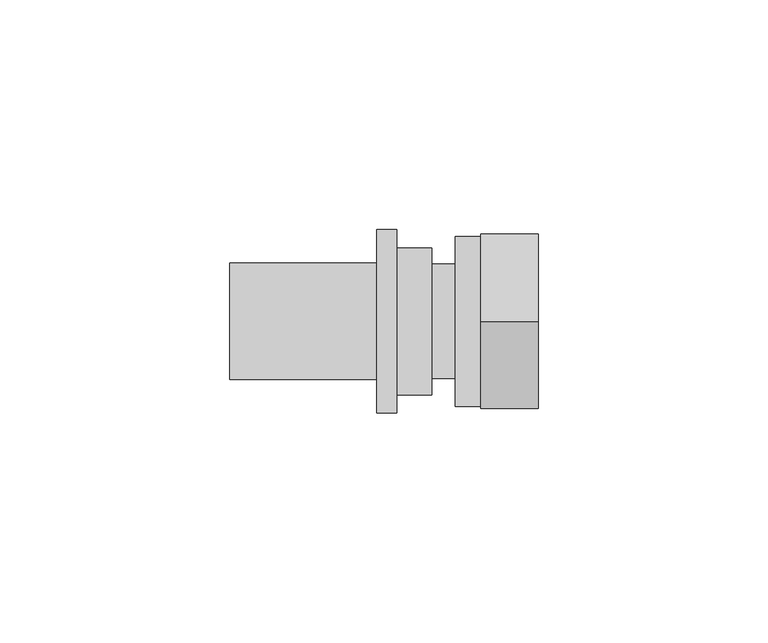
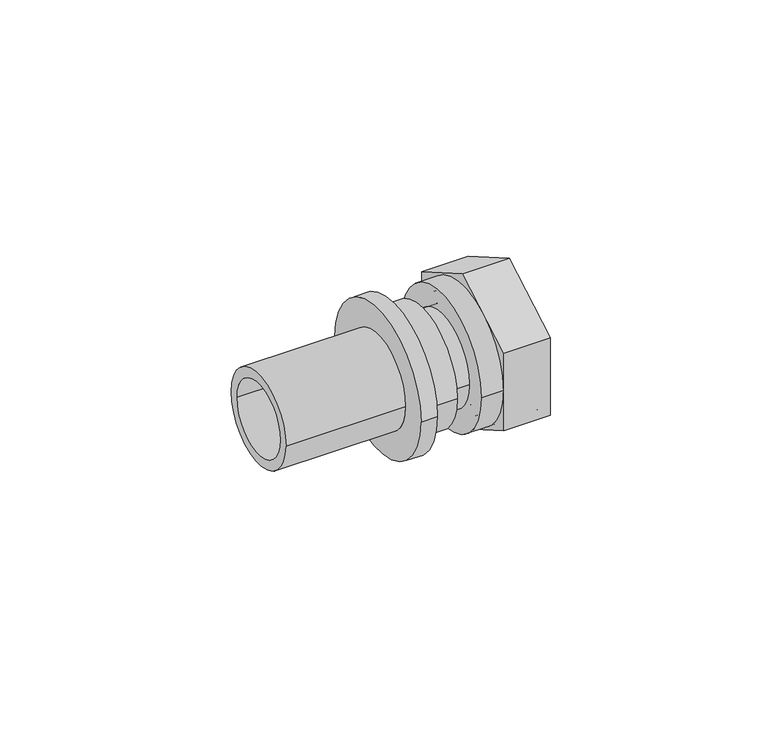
"""IFC4 building model written with IfcOpenShell, lengths in millimetres: pipe fitting geometry, REHAU_RAUTITAN_Adaptor_RX+_union nut : REHAU_RAUTITAN_Adaptor_RX+_union nut."""

from ifc_helpers import new_model, si_unit, point, frame, origin, origin_2d, place, context, project, spatial, polyline, circle_curve, trimmed, segment, composite_curve, outline, extrude, source, transform, mapped, element, save
from ifc_brep_helpers import plane_surface, cylinder_surface, revolved_surface, advanced_brep


def pipe_fitting_c94c5751(model_context):
    return source(origin(), model_context, "Body", "SolidModel", [
        advanced_brep(
        [(0.0, 16.0, 0.0), (0.0, -16.0, 0.0), (-7.65, -16.0, 0.0), (-7.65, 16.0, 0.0), (-44.0, 10.0, 0.0), (-44.0, -10.0, 0.0), (0.0, -10.0, 0.0), (0.0, 10.0, 0.0), (-12.0, 12.725, 0.0), (-12.0, -12.725, 0.0), (-44.0, -12.725, 0.0), (-44.0, 12.725, 0.0), (-7.65, 20.0, 0.0), (-7.65, -20.0, 0.0), (-12.0, -20.0, 0.0), (-12.0, 20.0, 0.0)],
        [
            (0, 1, circle_curve(frame((0.0, 0.0, 0.0), z_axis=(-1.0, 0.0, 0.0), x_axis=(0.0, -1.0, 0.0)), 16.0)),
            (1, 2),
            (2, 3, circle_curve(frame((-7.65, 0.0, 0.0), z_axis=(1.0, 0.0, 0.0), x_axis=(0.0, -1.0, 0.0)), 16.0)),
            (3, 0),
            (4, 5, circle_curve(frame((-44.0, 0.0, 0.0), z_axis=(-1.0, 0.0, 0.0), x_axis=(0.0, -1.0, 0.0)), 10.0)),
            (5, 6),
            (6, 7, circle_curve(frame((0.0, 0.0, 0.0), z_axis=(1.0, 0.0, 0.0), x_axis=(0.0, -1.0, 0.0)), 10.0)),
            (7, 4),
            (8, 9, circle_curve(frame((-12.0, 0.0, 0.0), z_axis=(-1.0, 0.0, 0.0), x_axis=(0.0, -1.0, 0.0)), 12.725)),
            (9, 10),
            (10, 11, circle_curve(frame((-44.0, 0.0, 0.0), z_axis=(1.0, 0.0, 0.0), x_axis=(0.0, -1.0, 0.0)), 12.725)),
            (11, 8),
            (12, 13, circle_curve(frame((-7.65, 0.0, 0.0), z_axis=(-1.0, 0.0, 0.0), x_axis=(0.0, -1.0, 0.0)), 20.0)),
            (13, 14),
            (14, 15, circle_curve(frame((-12.0, 0.0, 0.0), z_axis=(1.0, 0.0, 0.0), x_axis=(0.0, -1.0, 0.0)), 20.0)),
            (15, 12),
            (1, 0, circle_curve(frame((0.0, 0.0, 0.0), z_axis=(-1.0, 0.0, 0.0), x_axis=(0.0, 1.0, 0.0)), 16.0)),
            (3, 2, circle_curve(frame((-7.65, 0.0, 0.0), z_axis=(1.0, 0.0, 0.0), x_axis=(0.0, 1.0, 0.0)), 16.0)),
            (6, 7, circle_curve(frame((0.0, 0.0, 0.0), z_axis=(-1.0, 0.0, 0.0), x_axis=(0.0, 1.0, 0.0)), 10.0)),
            (5, 4, circle_curve(frame((-44.0, 0.0, 0.0), z_axis=(-1.0, 0.0, 0.0), x_axis=(0.0, 1.0, 0.0)), 10.0)),
            (10, 11, circle_curve(frame((-44.0, 0.0, 0.0), z_axis=(-1.0, 0.0, 0.0), x_axis=(0.0, 1.0, 0.0)), 12.725)),
            (9, 8, circle_curve(frame((-12.0, 0.0, 0.0), z_axis=(-1.0, 0.0, 0.0), x_axis=(0.0, 1.0, 0.0)), 12.725)),
            (14, 15, circle_curve(frame((-12.0, 0.0, 0.0), z_axis=(-1.0, 0.0, 0.0), x_axis=(0.0, 1.0, 0.0)), 20.0)),
            (13, 12, circle_curve(frame((-7.65, 0.0, 0.0), z_axis=(-1.0, 0.0, 0.0), x_axis=(0.0, 1.0, 0.0)), 20.0)),
        ],
        [
            cylinder_surface(frame((0.0, 0.0, 0.0), z_axis=(1.0, 0.0, 0.0), x_axis=(0.0, -1.0, 0.0)), 16.0),
            revolved_surface(polyline([(0.0, -10.0, 0.0), (-44.0, -10.0, 0.0)]), (0.0, 0.0, 0.0), (1.0, 0.0, 0.0)),
            cylinder_surface(frame((0.0, 0.0, 0.0), z_axis=(1.0, 0.0, 0.0), x_axis=(0.0, -1.0, 0.0)), 12.725),
            cylinder_surface(frame((0.0, 0.0, 0.0), z_axis=(1.0, 0.0, 0.0), x_axis=(0.0, -1.0, 0.0)), 20.0),
            cylinder_surface(frame((0.0, 0.0, 0.0), z_axis=(1.0, 0.0, 0.0), x_axis=(0.0, 1.0, 0.0)), 16.0),
            plane_surface(frame((0.0, 0.0, 0.0), z_axis=(1.0, 0.0, 0.0), x_axis=(0.0, 1.0, 0.0))),
            revolved_surface(polyline([(0.0, 10.0, 0.0), (-44.0, 10.0, 0.0)]), (0.0, 0.0, 0.0), (1.0, 0.0, 0.0)),
            plane_surface(frame((-44.0, 0.0, 0.0), z_axis=(-1.0, 0.0, 0.0), x_axis=(0.0, 1.0, 0.0))),
            cylinder_surface(frame((0.0, 0.0, 0.0), z_axis=(1.0, 0.0, 0.0), x_axis=(0.0, 1.0, 0.0)), 12.725),
            plane_surface(frame((-12.0, 0.0, 0.0), z_axis=(-1.0, 0.0, 0.0), x_axis=(0.0, 1.0, 0.0))),
            cylinder_surface(frame((0.0, 0.0, 0.0), z_axis=(1.0, 0.0, 0.0), x_axis=(0.0, 1.0, 0.0)), 20.0),
            plane_surface(frame((-7.65, 0.0, 0.0), z_axis=(1.0, 0.0, 0.0), x_axis=(0.0, 1.0, 0.0))),
        ],
        [
            (0, [[1, 2, 3, 4]]),
            (1, [[5, 6, 7, 8]]),
            (2, [[9, 10, 11, 12]]),
            (3, [[13, 14, 15, 16]]),
            (4, [[17, -4, 18, -2]]),
            (5, [[-17, -1], [19, -7]]),
            (6, [[20, -8, -19, -6]]),
            (7, [[21, -11], [-20, -5]]),
            (8, [[22, -12, -21, -10]]),
            (9, [[23, -15], [-22, -9]]),
            (10, [[24, -16, -23, -14]]),
            (11, [[-24, -13], [-18, -3]]),
        ],
    ),
        advanced_brep(
        [(8.0, 12.5, 0.0), (8.0, -12.5, 0.0), (0.0, -12.5, 0.0), (0.0, 12.5, 0.0), (11.0, 15.3, 0.0), (11.0, -15.3, 0.0), (8.0, -15.3, 0.0), (8.0, 15.3, 0.0), (1.4730817, 10.0, 0.0), (1.4730817, -10.0, 0.0), (11.0, -10.0, 0.0), (11.0, 10.0, 0.0), (0.0, 7.8264556, 0.0), (0.0, -7.8264556, 0.0), (1.4730817, -7.8264556, 0.0), (1.4730817, 7.8264556, 0.0)],
        [
            (0, 1, circle_curve(frame((8.0, 0.0, 0.0), z_axis=(-1.0, 0.0, 0.0), x_axis=(0.0, -1.0, 0.0)), 12.5)),
            (1, 2),
            (2, 3, circle_curve(frame((0.0, 0.0, 0.0), z_axis=(1.0, 0.0, 0.0), x_axis=(0.0, -1.0, 0.0)), 12.5)),
            (3, 0),
            (4, 5, circle_curve(frame((11.0, 0.0, 0.0), z_axis=(-1.0, 0.0, 0.0), x_axis=(0.0, -1.0, 0.0)), 15.3)),
            (5, 6),
            (6, 7, circle_curve(frame((8.0, 0.0, 0.0), z_axis=(1.0, 0.0, 0.0), x_axis=(0.0, -1.0, 0.0)), 15.3)),
            (7, 4),
            (8, 9, circle_curve(frame((1.4730817, 0.0, 0.0), z_axis=(-1.0, 0.0, 0.0), x_axis=(0.0, -1.0, 0.0)), 10.0)),
            (9, 10),
            (10, 11, circle_curve(frame((11.0, 0.0, 0.0), z_axis=(1.0, 0.0, 0.0), x_axis=(0.0, -1.0, 0.0)), 10.0)),
            (11, 8),
            (2, 3, circle_curve(frame((0.0, 0.0, 0.0), z_axis=(-1.0, 0.0, 0.0), x_axis=(0.0, 1.0, 0.0)), 12.5)),
            (12, 13, circle_curve(frame((0.0, 0.0, 0.0), z_axis=(1.0, 0.0, 0.0), x_axis=(0.0, 1.0, 0.0)), 7.8264556)),
            (13, 12, circle_curve(frame((0.0, 0.0, 0.0), z_axis=(1.0, 0.0, 0.0), x_axis=(0.0, -1.0, 0.0)), 7.8264556)),
            (1, 0, circle_curve(frame((8.0, 0.0, 0.0), z_axis=(-1.0, 0.0, 0.0), x_axis=(0.0, 1.0, 0.0)), 12.5)),
            (6, 7, circle_curve(frame((8.0, 0.0, 0.0), z_axis=(-1.0, 0.0, 0.0), x_axis=(0.0, 1.0, 0.0)), 15.3)),
            (5, 4, circle_curve(frame((11.0, 0.0, 0.0), z_axis=(-1.0, 0.0, 0.0), x_axis=(0.0, 1.0, 0.0)), 15.3)),
            (10, 11, circle_curve(frame((11.0, 0.0, 0.0), z_axis=(-1.0, 0.0, 0.0), x_axis=(0.0, 1.0, 0.0)), 10.0)),
            (9, 8, circle_curve(frame((1.4730817, 0.0, 0.0), z_axis=(-1.0, 0.0, 0.0), x_axis=(0.0, 1.0, 0.0)), 10.0)),
            (13, 14),
            (14, 15, circle_curve(frame((1.4730817, 0.0, 0.0), z_axis=(1.0, 0.0, 0.0), x_axis=(0.0, -1.0, 0.0)), 7.8264556)),
            (15, 12),
            (14, 15, circle_curve(frame((1.4730817, 0.0, 0.0), z_axis=(-1.0, 0.0, 0.0), x_axis=(0.0, 1.0, 0.0)), 7.8264556)),
        ],
        [
            cylinder_surface(frame((0.0, 0.0, 0.0), z_axis=(1.0, 0.0, 0.0), x_axis=(0.0, -1.0, 0.0)), 12.5),
            cylinder_surface(frame((0.0, 0.0, 0.0), z_axis=(1.0, 0.0, 0.0), x_axis=(0.0, -1.0, 0.0)), 15.3),
            revolved_surface(polyline([(11.0, -10.0, 0.0), (1.4730817, -10.0, 0.0)]), (0.0, 0.0, 0.0), (1.0, 0.0, 0.0)),
            plane_surface(frame((0.0, 0.0, 0.0), z_axis=(-1.0, 0.0, 0.0), x_axis=(0.0, 1.0, 0.0))),
            cylinder_surface(frame((0.0, 0.0, 0.0), z_axis=(1.0, 0.0, 0.0), x_axis=(0.0, 1.0, 0.0)), 12.5),
            plane_surface(frame((8.0, 0.0, 0.0), z_axis=(-1.0, 0.0, 0.0), x_axis=(0.0, 1.0, 0.0))),
            cylinder_surface(frame((0.0, 0.0, 0.0), z_axis=(1.0, 0.0, 0.0), x_axis=(0.0, 1.0, 0.0)), 15.3),
            plane_surface(frame((11.0, 0.0, 0.0), z_axis=(1.0, 0.0, 0.0), x_axis=(0.0, 1.0, 0.0))),
            revolved_surface(polyline([(11.0, 10.0, 0.0), (1.4730817, 10.0, 0.0)]), (0.0, 0.0, 0.0), (1.0, 0.0, 0.0)),
            revolved_surface(polyline([(1.4730817, -7.8264556, 0.0), (0.0, -7.8264556, 0.0)]), (0.0, 0.0, 0.0), (1.0, 0.0, 0.0)),
            plane_surface(frame((1.4730817, 0.0, 0.0), z_axis=(1.0, 0.0, 0.0), x_axis=(0.0, 1.0, 0.0))),
            revolved_surface(polyline([(1.4730817, 7.8264556, 0.0), (0.0, 7.8264556, 0.0)]), (0.0, 0.0, 0.0), (1.0, 0.0, 0.0)),
        ],
        [
            (0, [[1, 2, 3, 4]]),
            (1, [[5, 6, 7, 8]]),
            (2, [[9, 10, 11, 12]]),
            (3, [[13, -3], [14, 15]]),
            (4, [[16, -4, -13, -2]]),
            (5, [[17, -7], [-16, -1]]),
            (6, [[18, -8, -17, -6]]),
            (7, [[-18, -5], [19, -11]]),
            (8, [[20, -12, -19, -10]]),
            (9, [[-15, 21, 22, 23]]),
            (10, [[-20, -9], [24, -22]]),
            (11, [[-14, -23, -24, -21]]),
        ],
    ),
        advanced_brep(
        [(23.2, 18.5, 0.0), (23.2, -18.5, 0.0), (5.1, -18.5, 0.0), (5.1, 18.5, 0.0), (8.0, 15.3, 0.0), (8.0, -15.3, 0.0), (23.2, -15.3, 0.0), (23.2, 15.3, 0.0), (5.1, 12.4, 0.0), (5.1, -12.4, 0.0), (8.0, -12.4, 0.0), (8.0, 12.4, 0.0)],
        [
            (0, 1, circle_curve(frame((23.2, 0.0, 0.0), z_axis=(-1.0, 0.0, 0.0), x_axis=(0.0, -1.0, 0.0)), 18.5)),
            (1, 2),
            (2, 3, circle_curve(frame((5.1, 0.0, 0.0), z_axis=(1.0, 0.0, 0.0), x_axis=(0.0, -1.0, 0.0)), 18.5)),
            (3, 0),
            (4, 5, circle_curve(frame((8.0, 0.0, 0.0), z_axis=(-1.0, 0.0, 0.0), x_axis=(0.0, -1.0, 0.0)), 15.3)),
            (5, 6),
            (6, 7, circle_curve(frame((23.2, 0.0, 0.0), z_axis=(1.0, 0.0, 0.0), x_axis=(0.0, -1.0, 0.0)), 15.3)),
            (7, 4),
            (8, 9, circle_curve(frame((5.1, 0.0, 0.0), z_axis=(-1.0, 0.0, 0.0), x_axis=(0.0, -1.0, 0.0)), 12.4)),
            (9, 10),
            (10, 11, circle_curve(frame((8.0, 0.0, 0.0), z_axis=(1.0, 0.0, 0.0), x_axis=(0.0, -1.0, 0.0)), 12.4)),
            (11, 8),
            (1, 0, circle_curve(frame((23.2, 0.0, 0.0), z_axis=(-1.0, 0.0, 0.0), x_axis=(0.0, 1.0, 0.0)), 18.5)),
            (3, 2, circle_curve(frame((5.1, 0.0, 0.0), z_axis=(1.0, 0.0, 0.0), x_axis=(0.0, 1.0, 0.0)), 18.5)),
            (6, 7, circle_curve(frame((23.2, 0.0, 0.0), z_axis=(-1.0, 0.0, 0.0), x_axis=(0.0, 1.0, 0.0)), 15.3)),
            (5, 4, circle_curve(frame((8.0, 0.0, 0.0), z_axis=(-1.0, 0.0, 0.0), x_axis=(0.0, 1.0, 0.0)), 15.3)),
            (10, 11, circle_curve(frame((8.0, 0.0, 0.0), z_axis=(-1.0, 0.0, 0.0), x_axis=(0.0, 1.0, 0.0)), 12.4)),
            (9, 8, circle_curve(frame((5.1, 0.0, 0.0), z_axis=(-1.0, 0.0, 0.0), x_axis=(0.0, 1.0, 0.0)), 12.4)),
        ],
        [
            cylinder_surface(frame((0.0, 0.0, 0.0), z_axis=(1.0, 0.0, 0.0), x_axis=(0.0, -1.0, 0.0)), 18.5),
            revolved_surface(polyline([(23.2, -15.3, 0.0), (8.0, -15.3, 0.0)]), (0.0, 0.0, 0.0), (1.0, 0.0, 0.0)),
            revolved_surface(polyline([(8.0, -12.4, 0.0), (5.1, -12.4, 0.0)]), (0.0, 0.0, 0.0), (1.0, 0.0, 0.0)),
            cylinder_surface(frame((0.0, 0.0, 0.0), z_axis=(1.0, 0.0, 0.0), x_axis=(0.0, 1.0, 0.0)), 18.5),
            plane_surface(frame((23.2, 0.0, 0.0), z_axis=(1.0, 0.0, 0.0), x_axis=(0.0, 1.0, 0.0))),
            revolved_surface(polyline([(23.2, 15.3, 0.0), (8.0, 15.3, 0.0)]), (0.0, 0.0, 0.0), (1.0, 0.0, 0.0)),
            plane_surface(frame((8.0, 0.0, 0.0), z_axis=(1.0, 0.0, 0.0), x_axis=(0.0, 1.0, 0.0))),
            revolved_surface(polyline([(8.0, 12.4, 0.0), (5.1, 12.4, 0.0)]), (0.0, 0.0, 0.0), (1.0, 0.0, 0.0)),
            plane_surface(frame((5.1, 0.0, 0.0), z_axis=(-1.0, 0.0, 0.0), x_axis=(0.0, 1.0, 0.0))),
        ],
        [
            (0, [[1, 2, 3, 4]]),
            (1, [[5, 6, 7, 8]]),
            (2, [[9, 10, 11, 12]]),
            (3, [[13, -4, 14, -2]]),
            (4, [[-13, -1], [15, -7]]),
            (5, [[16, -8, -15, -6]]),
            (6, [[-16, -5], [17, -11]]),
            (7, [[18, -12, -17, -10]]),
            (8, [[-14, -3], [-18, -9]]),
        ],
    ),
        extrude(outline(polyline([(0.0, -21.9393102), (-19.0, -10.9696551), (-19.0, 10.9696551), (0.0, 21.9393102), (19.0, 10.9696551), (19.0, -10.9696551), (0.0, -21.9393102)]), holes=[composite_curve([segment(trimmed(circle_curve(origin_2d(), 18.5), [point((-18.5, 0.0))], [point((18.5, 0.0))], True, "CARTESIAN"), True, "CONTINUOUS"), segment(trimmed(circle_curve(origin_2d(), 18.5), [point((18.5, 0.0))], [point((-18.5, 0.0))], True, "CARTESIAN"), True, "CONTINUOUS")], self_intersect=False)]), frame((10.7, 0.0, 0.0), z_axis=(1.0, 0.0, 0.0), x_axis=(0.0, 1.0, 0.0)), (0.0, 0.0, 1.0), 12.5),
    ])


if __name__ == "__main__":
    model = new_model("IFC4")
    model_context = context("Model", 3, world=origin())
    ifc_project = project(units=[si_unit("LENGTHUNIT", "METRE", prefix="MILLI")], contexts=[model_context])
    site = spatial("IfcSite", under=ifc_project)
    building = spatial("IfcBuilding", under=site)
    placement = place(None, origin())
    pipe_fitting_shape = pipe_fitting_c94c5751(model_context)
    element("IfcPipeFitting", 1, ObjectType="REHAU_RAUTITAN_Adaptor_RX+_union nut : REHAU_RAUTITAN_Adaptor_RX+_union nut", at=placement, inside=building, context=model_context, shape_type="MappedRepresentation", body=[
        mapped(pipe_fitting_shape, transform((0.0, 0.0, 0.0), x_axis=(1.0, 0.0, 0.0), y_axis=(0.0, 1.0, 0.0), z_axis=(0.0, 0.0, 1.0))),
    ])
    save(model, "model.ifc")
